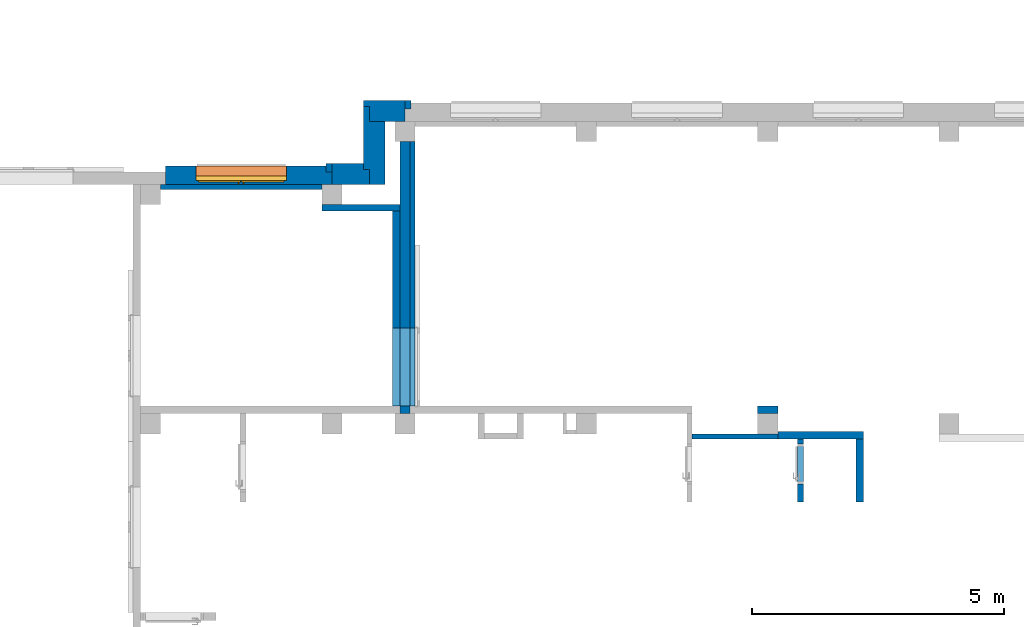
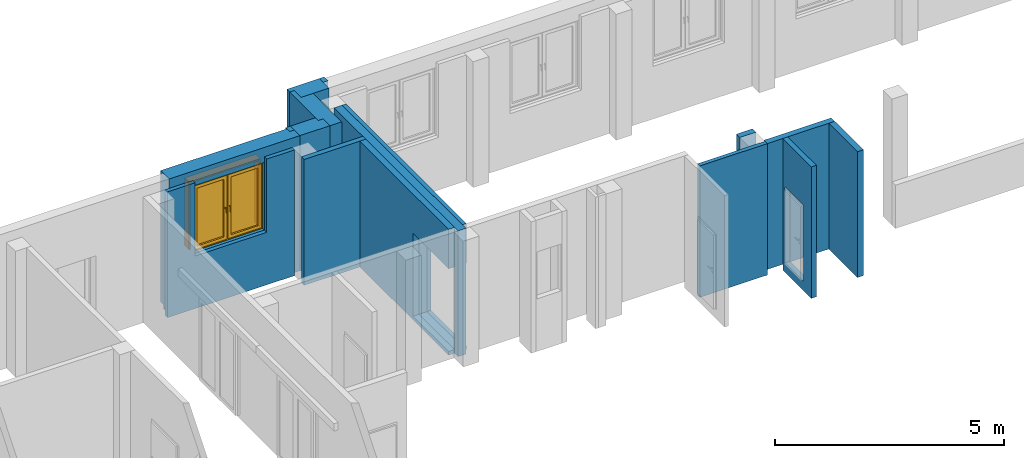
# One storey, part 21 of 37: 16 walls, 1 proxy, 1 window, 6 openings.
"""IFC4 building model written with IfcOpenShell, lengths in metres."""

from ifc_helpers import new_model, entity, si_unit, converted_unit, derived_unit, frame, frame_2d, origin, origin_with_axes, place, context, subcontext, project, spatial, polyline, rectangle, outline, extrude, clip, bounded_halfspace, closed_shell, open_shell, faceted_brep, surface_model, source, transform, mapped, material, layer, layer_set, layer_usage, element, fill, save


model = new_model("IFC4")

# Units and contexts
model_context = context("Model", 3, precision=1e-05, world=origin())
body_context = subcontext(model_context, "Body", "Model", "MODEL_VIEW")
ifc_project = project(units=[si_unit("LENGTHUNIT", "METRE"), si_unit("AREAUNIT", "SQUARE_METRE"), si_unit("VOLUMEUNIT", "CUBIC_METRE"), si_unit("MASSUNIT", "GRAM", prefix="KILO"), converted_unit("PLANEANGLEUNIT", "DEGREE", entity("IfcPlaneAngleMeasure", 0.0174532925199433), si_unit("PLANEANGLEUNIT", "RADIAN"), dimensions=[0, 0, 0, 0, 0, 0, 0]), derived_unit("THERMALTRANSMITTANCEUNIT", [(si_unit("POWERUNIT", "WATT"), 1), (si_unit("THERMODYNAMICTEMPERATUREUNIT", "KELVIN"), -1), (si_unit("LENGTHUNIT", "METRE"), -2)]), derived_unit("VOLUMETRICFLOWRATEUNIT", [(si_unit("LENGTHUNIT", "METRE"), 3), (converted_unit("TIMEUNIT", "hour", entity("IfcTimeMeasure", 3600.0), si_unit("TIMEUNIT", "SECOND"), dimensions=[0, 0, 1, 0, 0, 0, 0]), -1), (si_unit("LENGTHUNIT", "METRE"), -1)])], contexts=[model_context])

# Site, building, storey
site_placement = place(None, origin())
site = spatial("IfcSite", under=ifc_project, at=site_placement, Name="3. ASŘ", CompositionType="ELEMENT")
building_placement = place(site_placement, origin())
building = spatial("IfcBuilding", under=site, at=building_placement, Name="Pavilon B", CompositionType="ELEMENT")
storey_placement = place(building_placement, origin())
storey = spatial("IfcBuildingStorey", under=building, at=storey_placement, Name="Půdorys 1.NP", CompositionType="ELEMENT", Elevation=0.0)

# Wall, opening, window, proxy
ifc_material_1 = material(Name="ZELEZOBETONOVÁ KCE")
ifc_layer_1 = layer(ifc_material_1, 0.249999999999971)
ifc_material_2 = material(Name="MINERÁLNÍ VATA")
ifc_layer_2 = layer(ifc_material_2, 0.119999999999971)
ifc_layer_set_1 = layer_set([ifc_layer_1, ifc_layer_2])
ifc_layer_usage_1 = layer_usage(ifc_layer_set_1, "AXIS2", "POSITIVE", 0.0)
wall_1_placement = place(storey_placement, frame((44.35, -16.85, -0.1)))
wall_1 = element("IfcWall", 1, at=wall_1_placement, inside=storey, material=ifc_layer_usage_1, Name="ZELEZOBETONOVÁ KCE", context=body_context, shape_type="Clipping", body=[
    clip(extrude(outline(polyline([(0.0, 0.0), (3.3, 0.0), (3.3, 0.249999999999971), (3.18, 0.249999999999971), (3.18, 0.369999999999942), (0.0, 0.369999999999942), (0.0, 0.0)])), origin_with_axes(), (0.0, 0.0, 1.0), 3.6), bounded_halfspace(frame((1.59, 0.309999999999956, 0.1), z_axis=(0.0, 0.0, 1.0), x_axis=(0.0, -1.0, 0.0)), True, origin_with_axes(), polyline([(0.0, 0.369999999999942), (0.0, 0.249999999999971), (3.18, 0.249999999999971), (3.18, 0.369999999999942), (0.0, 0.369999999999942)]))),
])
opening_1_placement = place(wall_1_placement, frame((2.4, 0.37, 1.4), z_axis=(0.0, -1.0, 0.0), x_axis=(0.0, 0.0, 1.0)))
opening_1 = element("IfcOpeningElement", 2, at=opening_1_placement, cuts=wall_1, Name="Okenní otvor", ObjectType="Opening", context=body_context, shape_type="SweptSolid", body=[
    extrude(outline(polyline([(0.0, 1.8), (1.8, 1.8), (1.8, 0.0), (0.0, 0.0), (0.0, 1.8)])), origin_with_axes(), (0.0, 0.0, 1.0), 0.12),
    extrude(outline(polyline([(0.0, 1.8), (1.8, 1.8), (1.8, 0.0), (0.0, 0.0), (0.0, 1.8)])), frame((0.0, 0.0, 0.12), z_axis=(0.0, 0.0, 1.0), x_axis=(1.0, 0.0, 0.0)), (0.0, 0.0, 1.0), 0.25),
])
shared_shape = source(origin_with_axes(), body_context, "Body", "SurfaceModel", [
    surface_model("IfcShellBasedSurfaceModel", [(0.0, 0.182, 1.8), (0.0, 0.182, -5.63337527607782e-18), (0.08, 0.182, -5.63337527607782e-18), (0.08, 0.182, 1.8), (0.0, 0.0899999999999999, 5.63337527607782e-18), (0.0, 0.0900000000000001, 1.8), (0.08, 0.0900000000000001, 1.8), (0.08, 0.0899999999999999, 5.63337527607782e-18)], [closed_shell([[[0, 1, 2, 3]], [[4, 5, 6, 7]], [[1, 0, 5, 4]], [[2, 1, 4, 7]], [[3, 2, 7, 6]], [[0, 3, 6, 5]]], orient=[[False], [False], [False], [False], [False], [False]])]),
    surface_model("IfcShellBasedSurfaceModel", [(1.72, 0.182, 1.8), (1.72, 0.182, -5.63337527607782e-18), (1.8, 0.182, -5.63337527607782e-18), (1.8, 0.182, 1.8), (1.72, 0.0899999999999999, 5.63337527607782e-18), (1.72, 0.0900000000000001, 1.8), (1.8, 0.0900000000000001, 1.8), (1.8, 0.0899999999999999, 5.63337527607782e-18)], [closed_shell([[[0, 1, 2, 3]], [[4, 5, 6, 7]], [[1, 0, 5, 4]], [[2, 1, 4, 7]], [[3, 2, 7, 6]], [[0, 3, 6, 5]]], orient=[[False], [False], [False], [False], [False], [False]])]),
    surface_model("IfcShellBasedSurfaceModel", [(0.08, 0.182, 0.08), (0.08, 0.182, -5.63337527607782e-18), (1.72, 0.182, -5.63337527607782e-18), (1.72, 0.182, 0.08), (0.08, 0.0899999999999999, 5.63337527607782e-18), (0.08, 0.0899999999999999, 0.08), (1.72, 0.0899999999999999, 0.08), (1.72, 0.0899999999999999, 5.63337527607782e-18)], [closed_shell([[[0, 1, 2, 3]], [[4, 5, 6, 7]], [[1, 0, 5, 4]], [[2, 1, 4, 7]], [[3, 2, 7, 6]], [[0, 3, 6, 5]]], orient=[[False], [False], [False], [False], [False], [False]])]),
    surface_model("IfcShellBasedSurfaceModel", [(0.08, 0.182, 1.8), (0.08, 0.182, 1.72), (1.72, 0.182, 1.72), (1.72, 0.182, 1.8), (0.08, 0.0900000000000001, 1.72), (0.08, 0.0900000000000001, 1.8), (1.72, 0.0900000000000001, 1.8), (1.72, 0.0900000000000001, 1.72)], [closed_shell([[[0, 1, 2, 3]], [[4, 5, 6, 7]], [[1, 0, 5, 4]], [[2, 1, 4, 7]], [[3, 2, 7, 6]], [[0, 3, 6, 5]]], orient=[[False], [False], [False], [False], [False], [False]])]),
    surface_model("IfcShellBasedSurfaceModel", [(0.86, 0.182, 1.72), (0.86, 0.182, 0.08), (0.94, 0.182, 0.08), (0.94, 0.182, 1.72), (0.86, 0.0899999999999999, 0.08), (0.86, 0.0900000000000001, 1.72), (0.94, 0.0900000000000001, 1.72), (0.94, 0.0899999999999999, 0.08)], [closed_shell([[[0, 1, 2, 3]], [[4, 5, 6, 7]], [[1, 0, 5, 4]], [[2, 1, 4, 7]], [[3, 2, 7, 6]], [[0, 3, 6, 5]]], orient=[[False], [False], [False], [False], [False], [False]])]),
    surface_model("IfcShellBasedSurfaceModel", [(0.05, 0.145, 1.75), (0.05, 0.145, 0.05), (0.13, 0.145, 0.05), (0.13, 0.145, 1.75), (0.05, 0.0599999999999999, 0.05), (0.05, 0.0600000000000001, 1.75), (0.13, 0.0600000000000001, 1.75), (0.13, 0.0599999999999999, 0.05)], [closed_shell([[[0, 1, 2, 3]], [[4, 5, 6, 7]], [[1, 0, 5, 4]], [[2, 1, 4, 7]], [[3, 2, 7, 6]], [[0, 3, 6, 5]]], orient=[[False], [False], [False], [False], [False], [False]])]),
    surface_model("IfcShellBasedSurfaceModel", [(0.81, 0.145, 1.75), (0.81, 0.145, 0.05), (0.89, 0.145, 0.05), (0.89, 0.145, 1.75), (0.81, 0.0599999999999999, 0.05), (0.81, 0.0600000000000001, 1.75), (0.89, 0.0600000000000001, 1.75), (0.89, 0.0599999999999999, 0.05)], [closed_shell([[[0, 1, 2, 3]], [[4, 5, 6, 7]], [[1, 0, 5, 4]], [[2, 1, 4, 7]], [[3, 2, 7, 6]], [[0, 3, 6, 5]]], orient=[[False], [False], [False], [False], [False], [False]])]),
    surface_model("IfcShellBasedSurfaceModel", [(0.13, 0.145, 0.13), (0.13, 0.145, 0.05), (0.81, 0.145, 0.05), (0.81, 0.145, 0.13), (0.13, 0.0599999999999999, 0.05), (0.13, 0.0599999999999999, 0.13), (0.81, 0.0599999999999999, 0.13), (0.81, 0.0599999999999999, 0.05)], [closed_shell([[[0, 1, 2, 3]], [[4, 5, 6, 7]], [[1, 0, 5, 4]], [[2, 1, 4, 7]], [[3, 2, 7, 6]], [[0, 3, 6, 5]]], orient=[[False], [False], [False], [False], [False], [False]])]),
    surface_model("IfcShellBasedSurfaceModel", [(0.13, 0.145, 1.75), (0.13, 0.145, 1.67), (0.81, 0.145, 1.67), (0.81, 0.145, 1.75), (0.13, 0.0600000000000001, 1.67), (0.13, 0.0600000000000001, 1.75), (0.81, 0.0600000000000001, 1.75), (0.81, 0.0600000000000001, 1.67)], [closed_shell([[[0, 1, 2, 3]], [[4, 5, 6, 7]], [[1, 0, 5, 4]], [[2, 1, 4, 7]], [[3, 2, 7, 6]], [[0, 3, 6, 5]]], orient=[[False], [False], [False], [False], [False], [False]])]),
    surface_model("IfcShellBasedSurfaceModel", [(0.8375, 0.06, 0.92), (0.8375, 0.06, 0.88), (0.8625, 0.06, 0.88), (0.8625, 0.06, 0.92), (0.8375, 0.05, 0.88), (0.8375, 0.05, 0.92), (0.8625, 0.05, 0.92), (0.8625, 0.05, 0.88)], [closed_shell([[[0, 1, 2, 3]], [[4, 5, 6, 7]], [[1, 0, 5, 4]], [[2, 1, 4, 7]], [[3, 2, 7, 6]], [[0, 3, 6, 5]]], orient=[[False], [False], [False], [False], [False], [False]])]),
    surface_model("IfcShellBasedSurfaceModel", [(0.86, 0.05, 0.9), (0.858660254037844, 0.05, 0.905), (0.855, 0.05, 0.908660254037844), (0.85, 0.05, 0.91), (0.845, 0.05, 0.908660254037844), (0.841339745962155, 0.05, 0.905), (0.84, 0.05, 0.9), (0.841339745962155, 0.05, 0.895), (0.845, 0.05, 0.891339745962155), (0.85, 0.05, 0.89), (0.855, 0.05, 0.891339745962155), (0.858660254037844, 0.05, 0.895), (0.86, 0.01, 0.9), (0.858660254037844, 0.00500000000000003, 0.905), (0.855, 0.00133974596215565, 0.908660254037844), (0.85, 2.8421709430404e-17, 0.91), (0.845, 0.00133974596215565, 0.908660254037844), (0.841339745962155, 0.00500000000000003, 0.905), (0.84, 0.01, 0.9), (0.841339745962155, 0.015, 0.895), (0.845, 0.0186602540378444, 0.891339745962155), (0.85, 0.02, 0.89), (0.855, 0.0186602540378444, 0.891339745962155), (0.858660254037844, 0.015, 0.895), (0.86, 0.01, 0.785), (0.858660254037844, 0.005, 0.785), (0.855, 0.00133974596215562, 0.785), (0.85, 0.0, 0.785), (0.845, 0.00133974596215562, 0.785), (0.841339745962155, 0.005, 0.785), (0.84, 0.01, 0.785), (0.841339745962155, 0.015, 0.785), (0.845, 0.0186602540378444, 0.785), (0.85, 0.02, 0.785), (0.855, 0.0186602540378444, 0.785), (0.858660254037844, 0.015, 0.785)], [open_shell([[[0, 1, 2, 3, 4, 5, 6, 7, 8, 9, 10, 11]], [[0, 12, 13, 1]], [[1, 13, 14, 2]], [[2, 14, 15, 3]], [[3, 15, 16, 4]], [[4, 16, 17, 5]], [[5, 17, 18, 6]], [[6, 18, 19, 7]], [[7, 19, 20, 8]], [[8, 20, 21, 9]], [[9, 21, 22, 10]], [[10, 22, 23, 11]], [[11, 23, 12, 0]], [[12, 24, 25, 13]], [[13, 25, 26, 14]], [[14, 26, 27, 15]], [[15, 27, 28, 16]], [[16, 28, 29, 17]], [[17, 29, 30, 18]], [[18, 30, 31, 19]], [[19, 31, 32, 20]], [[20, 32, 33, 21]], [[21, 33, 34, 22]], [[22, 34, 35, 23]], [[23, 35, 24, 12]]], orient=[[False], [False], [False], [False], [False], [False], [False], [False], [False], [False], [False], [False], [False], [False], [False], [False], [False], [False], [False], [False], [False], [False], [False], [False], [False]])]),
    surface_model("IfcShellBasedSurfaceModel", [(0.91, 0.145, 1.75), (0.91, 0.145, 0.05), (0.99, 0.145, 0.05), (0.99, 0.145, 1.75), (0.91, 0.0599999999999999, 0.05), (0.91, 0.0600000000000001, 1.75), (0.99, 0.0600000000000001, 1.75), (0.99, 0.0599999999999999, 0.05)], [closed_shell([[[0, 1, 2, 3]], [[4, 5, 6, 7]], [[1, 0, 5, 4]], [[2, 1, 4, 7]], [[3, 2, 7, 6]], [[0, 3, 6, 5]]], orient=[[False], [False], [False], [False], [False], [False]])]),
    surface_model("IfcShellBasedSurfaceModel", [(1.67, 0.145, 1.75), (1.67, 0.145, 0.05), (1.75, 0.145, 0.05), (1.75, 0.145, 1.75), (1.67, 0.0599999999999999, 0.05), (1.67, 0.0600000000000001, 1.75), (1.75, 0.0600000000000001, 1.75), (1.75, 0.0599999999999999, 0.05)], [closed_shell([[[0, 1, 2, 3]], [[4, 5, 6, 7]], [[1, 0, 5, 4]], [[2, 1, 4, 7]], [[3, 2, 7, 6]], [[0, 3, 6, 5]]], orient=[[False], [False], [False], [False], [False], [False]])]),
    surface_model("IfcShellBasedSurfaceModel", [(0.99, 0.145, 0.13), (0.99, 0.145, 0.05), (1.67, 0.145, 0.05), (1.67, 0.145, 0.13), (0.99, 0.0599999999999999, 0.05), (0.99, 0.0599999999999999, 0.13), (1.67, 0.0599999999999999, 0.13), (1.67, 0.0599999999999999, 0.05)], [closed_shell([[[0, 1, 2, 3]], [[4, 5, 6, 7]], [[1, 0, 5, 4]], [[2, 1, 4, 7]], [[3, 2, 7, 6]], [[0, 3, 6, 5]]], orient=[[False], [False], [False], [False], [False], [False]])]),
    surface_model("IfcShellBasedSurfaceModel", [(0.99, 0.145, 1.75), (0.99, 0.145, 1.67), (1.67, 0.145, 1.67), (1.67, 0.145, 1.75), (0.99, 0.0600000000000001, 1.67), (0.99, 0.0600000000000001, 1.75), (1.67, 0.0600000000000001, 1.75), (1.67, 0.0600000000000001, 1.67)], [closed_shell([[[0, 1, 2, 3]], [[4, 5, 6, 7]], [[1, 0, 5, 4]], [[2, 1, 4, 7]], [[3, 2, 7, 6]], [[0, 3, 6, 5]]], orient=[[False], [False], [False], [False], [False], [False]])]),
    surface_model("IfcShellBasedSurfaceModel", [(0.9375, 0.06, 0.92), (0.9375, 0.06, 0.88), (0.9625, 0.06, 0.88), (0.9625, 0.06, 0.92), (0.9375, 0.05, 0.88), (0.9375, 0.05, 0.92), (0.9625, 0.05, 0.92), (0.9625, 0.05, 0.88)], [closed_shell([[[0, 1, 2, 3]], [[4, 5, 6, 7]], [[1, 0, 5, 4]], [[2, 1, 4, 7]], [[3, 2, 7, 6]], [[0, 3, 6, 5]]], orient=[[False], [False], [False], [False], [False], [False]])]),
    surface_model("IfcShellBasedSurfaceModel", [(0.96, 0.05, 0.9), (0.958660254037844, 0.05, 0.905), (0.955, 0.05, 0.908660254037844), (0.95, 0.05, 0.91), (0.945, 0.05, 0.908660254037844), (0.941339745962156, 0.05, 0.905), (0.94, 0.05, 0.9), (0.941339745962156, 0.05, 0.895), (0.945, 0.05, 0.891339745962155), (0.95, 0.05, 0.89), (0.955, 0.05, 0.891339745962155), (0.958660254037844, 0.05, 0.895), (0.96, 0.01, 0.9), (0.958660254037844, 0.00500000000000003, 0.905), (0.955, 0.00133974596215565, 0.908660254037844), (0.95, 2.8421709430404e-17, 0.91), (0.945, 0.00133974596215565, 0.908660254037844), (0.941339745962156, 0.00500000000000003, 0.905), (0.94, 0.01, 0.9), (0.941339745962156, 0.015, 0.895), (0.945, 0.0186602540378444, 0.891339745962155), (0.95, 0.02, 0.89), (0.955, 0.0186602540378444, 0.891339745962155), (0.958660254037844, 0.015, 0.895), (0.96, 0.01, 0.785), (0.958660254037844, 0.005, 0.785), (0.955, 0.00133974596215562, 0.785), (0.95, 0.0, 0.785), (0.945, 0.00133974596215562, 0.785), (0.941339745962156, 0.005, 0.785), (0.94, 0.01, 0.785), (0.941339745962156, 0.015, 0.785), (0.945, 0.0186602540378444, 0.785), (0.95, 0.02, 0.785), (0.955, 0.0186602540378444, 0.785), (0.958660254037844, 0.015, 0.785)], [open_shell([[[0, 1, 2, 3, 4, 5, 6, 7, 8, 9, 10, 11]], [[0, 12, 13, 1]], [[1, 13, 14, 2]], [[2, 14, 15, 3]], [[3, 15, 16, 4]], [[4, 16, 17, 5]], [[5, 17, 18, 6]], [[6, 18, 19, 7]], [[7, 19, 20, 8]], [[8, 20, 21, 9]], [[9, 21, 22, 10]], [[10, 22, 23, 11]], [[11, 23, 12, 0]], [[12, 24, 25, 13]], [[13, 25, 26, 14]], [[14, 26, 27, 15]], [[15, 27, 28, 16]], [[16, 28, 29, 17]], [[17, 29, 30, 18]], [[18, 30, 31, 19]], [[19, 31, 32, 20]], [[20, 32, 33, 21]], [[21, 33, 34, 22]], [[22, 34, 35, 23]], [[23, 35, 24, 12]]], orient=[[False], [False], [False], [False], [False], [False], [False], [False], [False], [False], [False], [False], [False], [False], [False], [False], [False], [False], [False], [False], [False], [False], [False], [False], [False]])]),
    surface_model("IfcShellBasedSurfaceModel", [(0.13, 0.1025, 0.13), (0.81, 0.1025, 0.13), (0.81, 0.1025, 1.67), (0.13, 0.1025, 1.67)], [open_shell([[[0, 1, 2, 3]]], orient=[[False]])]),
    surface_model("IfcShellBasedSurfaceModel", [(0.99, 0.1025, 0.13), (1.67, 0.1025, 0.13), (1.67, 0.1025, 1.67), (0.99, 0.1025, 1.67)], [open_shell([[[0, 1, 2, 3]]], orient=[[False]])]),
])
window_placement = place(opening_1_placement, frame((0.0, 0.0, 0.382), z_axis=(1.0, 0.0, 0.0), x_axis=(0.0, 1.0, -2.44929359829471e-16)))
window = element("IfcWindow", 3, at=window_placement, inside=storey, Name="O06", OverallHeight=1.8, OverallWidth=1.8, PartitioningType="USERDEFINED", PredefinedType="WINDOW", context=body_context, shape_type="MappedRepresentation", body=[
    mapped(shared_shape, transform((0.0, 0.0, 0.0), x_axis=(1.0, 0.0, 0.0), y_axis=(0.0, -1.0, 0.0), z_axis=(0.0, 0.0, 1.0), scale=1.0)),
])
fill(opening_1, window)
ifc_material_3 = material(Name="MINERÁLNÍ VATA")
proxy_placement = place(opening_1_placement, frame((0.0, 1.8, 0.2)))
proxy = element("IfcBuildingElementProxy", 4, at=proxy_placement, inside=storey, material=ifc_material_3, context=body_context, shape_type="Brep", body=[
    faceted_brep([(0.0, -1.8, -0.2), (0.0, -1.8, 0.0), (1.8, -1.8, 0.0), (1.8, -1.8, -0.2), (0.0, -1.76, 0.0), (0.0, -1.76, -0.2), (1.76, -1.76, -0.2), (1.76, -1.76, 0.0), (1.8, 0.0, 0.0), (1.8, 0.0, -0.2), (0.0, 0.0, -0.2), (0.0, -0.0400000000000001, -0.2), (1.76, -0.0400000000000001, -0.2), (1.76, -0.0400000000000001, 0.0), (0.0, -0.0400000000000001, 0.0), (0.0, 0.0, 0.0)], [[[0, 1, 2, 3]], [[4, 5, 6, 7]], [[0, 5, 4, 1]], [[3, 2, 8, 9]], [[6, 5, 0, 3, 9, 10, 11, 12]], [[13, 14, 15, 8, 2, 1, 4, 7]], [[7, 6, 12, 13]], [[11, 14, 13, 12]], [[15, 10, 9, 8]], [[11, 10, 15, 14]]], orient=[[False], [False], [False], [False], [False], [False], [False], [False], [False], [False]]),
])
fill(opening_1, proxy)

# Wall
ifc_material_4 = material(Name="MINERÁLNÍ VATA")
ifc_layer_3 = layer(ifc_material_4, 0.12)
ifc_layer_set_2 = layer_set([ifc_layer_3])
ifc_layer_usage_2 = layer_usage(ifc_layer_set_2, "AXIS2", "POSITIVE", 0.0)
wall_2_placement = place(storey_placement, frame((47.65, -16.6, 0.0), z_axis=(0.0, 0.0, 1.0), x_axis=(0.0, 1.0, 0.0)))
element("IfcWall", 5, at=wall_2_placement, inside=storey, material=ifc_layer_usage_2, Name="ZELEZOBETONOVÁ KCE", context=body_context, shape_type="SweptSolid", body=[
    extrude(rectangle(XDim=0.17, YDim=0.12, at=frame_2d((0.085, 0.06), x_axis=(1.0, 0.0))), origin_with_axes(), (0.0, 0.0, 1.0), 3.5),
])

# Wall, opening
ifc_material_5 = material(Name="PÓROBETONOVÉ ZDIVO")
ifc_layer_4 = layer(ifc_material_5, 0.1)
ifc_layer_set_3 = layer_set([ifc_layer_4])
ifc_layer_usage_3 = layer_usage(ifc_layer_set_3, "AXIS2", "POSITIVE", 0.0)
wall_3_placement = place(storey_placement, frame((47.45, -16.85, -0.1), z_axis=(0.0, 0.0, 1.0), x_axis=(-1.0, 0.0, 0.0)))
wall_3 = element("IfcWall", 6, at=wall_3_placement, inside=storey, material=ifc_layer_usage_3, Name="PÓROBETONOVÉ ZDIVO", context=body_context, shape_type="SweptSolid", body=[
    extrude(rectangle(XDim=3.2, YDim=0.1, at=frame_2d((1.6, 0.05), x_axis=(1.0, 0.0))), origin_with_axes(), (0.0, 0.0, 1.0), 3.35),
])
opening_2_placement = place(wall_3_placement, frame((2.5, 0.1, 1.4), z_axis=(0.0, -1.0, 0.0), x_axis=(0.0, 0.0, 1.0)))
element("IfcOpeningElement", 7, at=opening_2_placement, cuts=wall_3, Name="Okenní otvor", ObjectType="Opening", context=body_context, shape_type="SweptSolid", body=[
    extrude(outline(polyline([(0.0, 1.8), (1.95, 1.8), (1.95, 0.0), (0.0, 0.0), (0.0, 1.8)])), origin_with_axes(), (0.0, 0.0, 1.0), 0.1),
])

# Walls
ifc_material_6 = material(Name="MINERÁLNÍ VATA")
ifc_layer_5 = layer(ifc_material_6, 0.12)
ifc_layer_set_4 = layer_set([ifc_layer_5])
ifc_layer_usage_4 = layer_usage(ifc_layer_set_4, "AXIS2", "POSITIVE", 0.0)
wall_4_placement = place(storey_placement, frame((49.1, -15.18, 0.0), z_axis=(0.0, 0.0, 1.0), x_axis=(0.0, -1.0, 0.0)))
element("IfcWall", 8, at=wall_4_placement, inside=storey, material=ifc_layer_usage_4, Name="ZELEZOBETONOVÁ KCE", context=body_context, shape_type="SweptSolid", body=[
    extrude(rectangle(XDim=0.17, YDim=0.12, at=frame_2d((0.085, 0.06), x_axis=(1.0, 0.0))), origin_with_axes(), (0.0, 0.0, 1.0), 3.5),
])
ifc_material_7 = material(Name="ZDIVO Z CDm")
ifc_layer_6 = layer(ifc_material_7, 0.125)
ifc_layer_set_5 = layer_set([ifc_layer_6])
ifc_layer_usage_5 = layer_usage(ifc_layer_set_5, "AXIS2", "POSITIVE", 0.0)
wall_5_placement = place(storey_placement, frame((49.0, -17.25, -0.1), z_axis=(0.0, 0.0, 1.0), x_axis=(-1.0, 0.0, 0.0)))
element("IfcWall", 9, at=wall_5_placement, inside=storey, material=ifc_layer_usage_5, Name="ZDIVO Z CDm", context=body_context, shape_type="SweptSolid", body=[
    extrude(rectangle(XDim=1.55, YDim=0.125, at=frame_2d((0.775, 0.0625), x_axis=(1.0, 0.0))), origin_with_axes(), (0.0, 0.0, 1.0), 3.35),
])

# Wall, opening
ifc_material_8 = material(Name="ZELEZOBETONOVÁ KCE")
ifc_layer_7 = layer(ifc_material_8, 0.2)
ifc_layer_set_6 = layer_set([ifc_layer_7])
ifc_layer_usage_6 = layer_usage(ifc_layer_set_6, "AXIS2", "POSITIVE", -0.1)
wall_6_placement = place(storey_placement, frame((49.0, -16.0, -0.1), z_axis=(0.0, 0.0, 1.0), x_axis=(0.0, -1.0, 0.0)))
wall_6 = element("IfcWall", 10, at=wall_6_placement, inside=storey, material=ifc_layer_usage_6, Name="ZELEZOBETONOVÁ KCE", context=body_context, shape_type="SweptSolid", body=[
    extrude(rectangle(XDim=5.4, YDim=0.2, at=frame_2d((2.7, 0.1), x_axis=(1.0, 0.0))), origin_with_axes(), (0.0, 0.0, 1.0), 3.35),
])
opening_3_placement = place(wall_6_placement, frame((5.24999999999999, 0.2, 0.1), z_axis=(0.0, -1.0, 0.0), x_axis=(0.0, 0.0, 1.0)))
element("IfcOpeningElement", 11, at=opening_3_placement, cuts=wall_6, Name="Dveřní otvor", ObjectType="Opening", context=body_context, shape_type="SweptSolid", body=[
    extrude(outline(polyline([(0.0, 1.55), (2.2, 1.55), (2.2, 0.0), (0.0, 0.0), (0.0, 1.55)])), origin_with_axes(), (0.0, 0.0, 1.0), 0.2),
])

# Walls
ifc_material_9 = material(Name="ZELEZOBETONOVÁ KCE")
ifc_layer_8 = layer(ifc_material_9, 0.3)
ifc_material_10 = material(Name="MINERÁLNÍ VATA")
ifc_layer_9 = layer(ifc_material_10, 0.12)
ifc_layer_set_7 = layer_set([ifc_layer_8, ifc_layer_9])
ifc_layer_usage_7 = layer_usage(ifc_layer_set_7, "AXIS2", "POSITIVE", 0.0)
wall_7_placement = place(storey_placement, frame((48.4, -15.6, -0.1)))
element("IfcWall", 12, at=wall_7_placement, inside=storey, material=ifc_layer_usage_7, Name="ZELEZOBETONOVÁ KCE", context=body_context, shape_type="Clipping", body=[
    clip(extrude(outline(polyline([(0.0, 0.42), (0.0, 0.3), (0.12, 0.3), (0.12, 0.0), (0.82, 0.0), (0.82, 0.42), (0.0, 0.42)])), frame((-0.12, 0.0, 0.0), z_axis=(0.0, 0.0, 1.0), x_axis=(1.0, 0.0, 0.0)), (0.0, 0.0, 1.0), 3.6), bounded_halfspace(frame((0.232000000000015, 0.347999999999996, 0.1), z_axis=(0.0, 0.0, 1.0), x_axis=(0.0, -1.0, 0.0)), True, origin_with_axes(), polyline([(-0.12, 0.42), (-0.12, 0.3), (7.27595761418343e-15, 0.299999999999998), (0.700000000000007, 0.299999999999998), (0.7, 0.42), (-0.12, 0.42)]))),
])
ifc_material_11 = material(Name="ZELEZOBETONOVÁ KCE")
ifc_layer_10 = layer(ifc_material_11, 0.3)
ifc_material_12 = material(Name="MINERÁLNÍ VATA")
ifc_layer_11 = layer(ifc_material_12, 0.12)
ifc_layer_set_8 = layer_set([ifc_layer_10, ifc_layer_11])
ifc_layer_usage_8 = layer_usage(ifc_layer_set_8, "AXIS2", "POSITIVE", 0.0)
wall_8_placement = place(storey_placement, frame((47.65, -16.85, -0.1)))
element("IfcWall", 13, at=wall_8_placement, inside=storey, material=ifc_layer_usage_8, Name="ZELEZOBETONOVÁ KCE", context=body_context, shape_type="Clipping", body=[
    clip(extrude(outline(polyline([(0.0, 0.0), (0.75, 0.0), (0.75, 0.3), (0.63, 0.3), (0.63, 0.42), (0.0, 0.42), (0.0, 0.0)])), origin_with_axes(), (0.0, 0.0, 1.0), 3.6), bounded_halfspace(frame((0.315, 0.36, 0.1), z_axis=(0.0, 0.0, 1.0), x_axis=(0.0, -1.0, 0.0)), True, origin_with_axes(), polyline([(0.0, 0.42), (0.0, 0.3), (0.63, 0.3), (0.63, 0.42), (0.0, 0.42)]))),
])
ifc_material_13 = material(Name="ZELEZOBETONOVÁ KCE")
ifc_layer_12 = layer(ifc_material_13, 0.3)
ifc_material_14 = material(Name="MINERÁLNÍ VATA")
ifc_layer_13 = layer(ifc_material_14, 0.12)
ifc_layer_set_9 = layer_set([ifc_layer_12, ifc_layer_13])
ifc_layer_usage_9 = layer_usage(ifc_layer_set_9, "AXIS2", "POSITIVE", 0.0)
wall_9_placement = place(storey_placement, frame((48.7, -16.85, -0.1), z_axis=(0.0, 0.0, 1.0), x_axis=(0.0, 1.0, 0.0)))
element("IfcWall", 14, at=wall_9_placement, inside=storey, material=ifc_layer_usage_9, Name="ZELEZOBETONOVÁ KCE", context=body_context, shape_type="Clipping", body=[
    clip(extrude(outline(polyline([(0.0, -0.42), (1.25, -0.42), (1.25, -0.12), (1.55, -0.12), (1.55, 0.0), (0.3, 0.0), (0.3, -0.12), (0.0, -0.12), (0.0, -0.42)])), frame((0.0, 0.42, 0.0), z_axis=(0.0, 0.0, 1.0), x_axis=(1.0, 0.0, 0.0)), (0.0, 0.0, 1.0), 3.6), bounded_halfspace(frame((0.99, 0.348, 0.1), z_axis=(0.0, 0.0, 1.0), x_axis=(0.0, -1.0, 0.0)), True, origin_with_axes(), polyline([(0.3, 0.42), (0.3, 0.3), (1.25, 0.299999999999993), (1.55, 0.3), (1.55, 0.42), (0.3, 0.42)]))),
])
ifc_material_15 = material(Name="YTONG 100")
ifc_layer_14 = layer(ifc_material_15, 0.1)
ifc_layer_set_10 = layer_set([ifc_layer_14])
ifc_layer_usage_10 = layer_usage(ifc_layer_set_10, "AXIS2", "POSITIVE", 0.0)
wall_10_placement = place(storey_placement, frame((56.5, -21.8, -0.25), z_axis=(0.0, 0.0, 1.0), x_axis=(-1.0, 0.0, 0.0)))
element("IfcWall", 15, at=wall_10_placement, inside=storey, material=ifc_layer_usage_10, Name="YTONG 100", context=body_context, shape_type="SweptSolid", body=[
    extrude(rectangle(XDim=1.7, YDim=0.1, at=frame_2d((0.85, 0.05), x_axis=(1.0, 0.0))), origin_with_axes(), (0.0, 0.0, 1.0), 3.5),
])
ifc_material_16 = material(Name="YTONG 150")
ifc_layer_15 = layer(ifc_material_16, 0.15)
ifc_layer_set_11 = layer_set([ifc_layer_15])
ifc_layer_usage_11 = layer_usage(ifc_layer_set_11, "AXIS2", "POSITIVE", 0.0)
wall_11_placement = place(storey_placement, frame((56.1, -21.4, -0.1)))
element("IfcWall", 16, at=wall_11_placement, inside=storey, material=ifc_layer_usage_11, Name="YTONG 150", context=body_context, shape_type="SweptSolid", body=[
    extrude(rectangle(XDim=0.4, YDim=0.15, at=frame_2d((0.2, 0.075), x_axis=(1.0, 0.0))), origin_with_axes(), (0.0, 0.0, 1.0), 3.35),
])
ifc_material_17 = material(Name="YTONG 150")
ifc_layer_16 = layer(ifc_material_17, 0.15)
ifc_layer_set_12 = layer_set([ifc_layer_16])
ifc_layer_usage_12 = layer_usage(ifc_layer_set_12, "AXIS2", "POSITIVE", 0.0)
wall_12_placement = place(storey_placement, frame((56.5, -21.9, -0.1)))
element("IfcWall", 17, at=wall_12_placement, inside=storey, material=ifc_layer_usage_12, Name="YTONG 150", context=body_context, shape_type="SweptSolid", body=[
    extrude(rectangle(XDim=1.7, YDim=0.15, at=frame_2d((0.85, 0.075), x_axis=(1.0, 0.0))), origin_with_axes(), (0.0, 0.0, 1.0), 3.35),
])
ifc_material_18 = material(Name="YTONG 150")
ifc_layer_17 = layer(ifc_material_18, 0.15)
ifc_layer_set_13 = layer_set([ifc_layer_17])
ifc_layer_usage_13 = layer_usage(ifc_layer_set_13, "AXIS2", "POSITIVE", 0.0)
wall_13_placement = place(storey_placement, frame((58.2, -23.15, -0.1), z_axis=(0.0, 0.0, 1.0), x_axis=(0.0, 1.0, 0.0)))
element("IfcWall", 18, at=wall_13_placement, inside=storey, material=ifc_layer_usage_13, Name="YTONG 150", context=body_context, shape_type="SweptSolid", body=[
    extrude(rectangle(XDim=1.25, YDim=0.15, at=frame_2d((0.625, 0.075), x_axis=(1.0, 0.0))), origin_with_axes(), (0.0, 0.0, 1.0), 3.35),
])

# Wall, opening
ifc_material_19 = material(Name="YTONG 125")
ifc_layer_18 = layer(ifc_material_19, 0.125)
ifc_layer_set_14 = layer_set([ifc_layer_18])
ifc_layer_usage_14 = layer_usage(ifc_layer_set_14, "AXIS2", "POSITIVE", 0.0)
wall_14_placement = place(storey_placement, frame((57.015, -23.15, -0.25), z_axis=(0.0, 0.0, 1.0), x_axis=(0.0, 1.0, 0.0)))
wall_14 = element("IfcWall", 19, at=wall_14_placement, inside=storey, material=ifc_layer_usage_14, Name="YTONG 125", context=body_context, shape_type="SweptSolid", body=[
    extrude(rectangle(XDim=1.25, YDim=0.125, at=frame_2d((0.625, 0.0625), x_axis=(1.0, 0.0))), origin_with_axes(), (0.0, 0.0, 1.0), 3.5),
])
opening_4_placement = place(wall_14_placement, frame((0.350000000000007, 0.0, 0.25), z_axis=(0.0, 1.0, 0.0), x_axis=(0.0, 0.0, 1.0)))
element("IfcOpeningElement", 20, at=opening_4_placement, cuts=wall_14, Name="Dveřní otvor", ObjectType="Opening", context=body_context, shape_type="SweptSolid", body=[
    extrude(outline(polyline([(0.0, 0.8), (2.02, 0.8), (2.02, 0.0), (0.0, 0.0), (0.0, 0.8)])), origin_with_axes(), (0.0, 0.0, 1.0), 0.125),
])

ifc_material_20 = material(Name="YTONG 150")
ifc_layer_19 = layer(ifc_material_20, 0.15)
ifc_layer_set_15 = layer_set([ifc_layer_19])
ifc_layer_usage_15 = layer_usage(ifc_layer_set_15, "AXIS2", "POSITIVE", 0.0)
wall_15_placement = place(storey_placement, frame((49.0, -21.25, -0.1), z_axis=(0.0, 0.0, 1.0), x_axis=(0.0, 1.0, 0.0)))
wall_15 = element("IfcWall", 21, at=wall_15_placement, inside=storey, material=ifc_layer_usage_15, Name="YTONG 150", context=body_context, shape_type="SweptSolid", body=[
    extrude(rectangle(XDim=3.875, YDim=0.15, at=frame_2d((1.9375, 0.075), x_axis=(1.0, 0.0))), origin_with_axes(), (0.0, 0.0, 1.0), 3.35),
])
opening_5_placement = place(wall_15_placement, frame((1.55000000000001, 0.15, 0.1), z_axis=(0.0, -1.0, 0.0), x_axis=(0.0, 0.0, 1.0)))
element("IfcOpeningElement", 22, at=opening_5_placement, cuts=wall_15, Name="Dveřní otvor", ObjectType="Opening", context=body_context, shape_type="SweptSolid", body=[
    extrude(outline(polyline([(0.0, 1.55000000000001), (2.2, 1.55000000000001), (2.2, 0.0), (0.0, 0.0), (0.0, 1.55000000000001)])), origin_with_axes(), (0.0, 0.0, 1.0), 0.15),
])

ifc_material_21 = material(Name="PÓROBETONOVÉ ZDIVO")
ifc_layer_20 = layer(ifc_material_21, 0.1)
ifc_layer_set_16 = layer_set([ifc_layer_20])
ifc_layer_usage_16 = layer_usage(ifc_layer_set_16, "AXIS2", "POSITIVE", 0.0)
wall_16_placement = place(storey_placement, frame((49.2, -16.0, -0.1), z_axis=(0.0, 0.0, 1.0), x_axis=(0.0, -1.0, 0.0)))
wall_16 = element("IfcWall", 23, at=wall_16_placement, inside=storey, material=ifc_layer_usage_16, Name="PÓROBETONOVÉ ZDIVO", context=body_context, shape_type="SweptSolid", body=[
    extrude(rectangle(XDim=5.25, YDim=0.1, at=frame_2d((2.625, 0.05), x_axis=(1.0, 0.0))), origin_with_axes(), (0.0, 0.0, 1.0), 3.35),
])
opening_6_placement = place(wall_16_placement, frame((5.25, 0.1, 0.1), z_axis=(0.0, -1.0, 0.0), x_axis=(0.0, 0.0, 1.0)))
element("IfcOpeningElement", 24, at=opening_6_placement, cuts=wall_16, Name="Dveřní otvor", ObjectType="Opening", context=body_context, shape_type="SweptSolid", body=[
    extrude(outline(polyline([(0.0, 1.55), (2.2, 1.55), (2.2, 0.0), (0.0, 0.0), (0.0, 1.55)])), origin_with_axes(), (0.0, 0.0, 1.0), 0.1),
])

save(model, "model.ifc")
